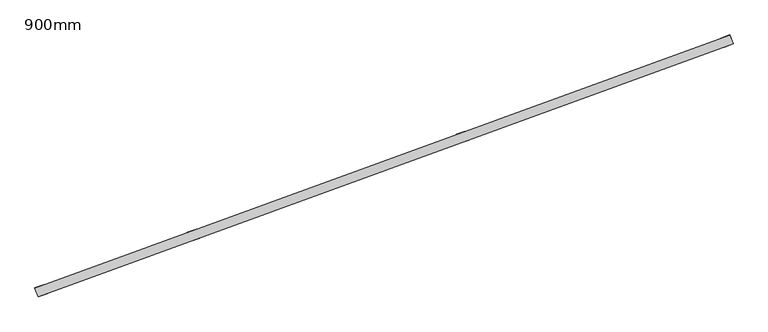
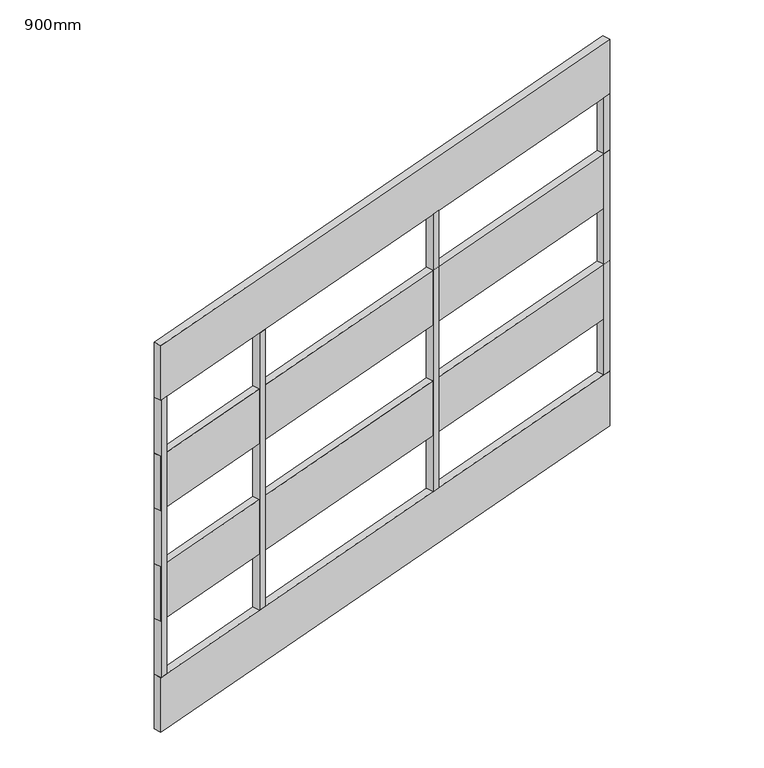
"""IFC4 building model written with IfcOpenShell, lengths in millimetres: railing geometry, 900mm."""

from ifc_helpers import new_model, si_unit, frame, origin, place, context, project, spatial, polyline, outline, extrude, source, transform, mapped, element, save


def railing_900mm_ed1fbf09(model_context):
    return source(origin(), model_context, "Body", "SweptSolid", [
        extrude(outline(polyline([(19660.7231105, 24561.5182921), (19667.2214932, 24543.6641323), (18210.697931, 24013.5329102), (18204.1995483, 24031.38707), (19660.7231105, 24561.5182921)])), frame((0.0, 0.0, 8352.0), z_axis=(0.0, 0.0, 1.0), x_axis=(1.0, 0.0, 0.0)), (0.0, 0.0, 1.0), 148.0),
        extrude(outline(polyline([(19660.7231105, 24561.5182921), (19667.2214932, 24543.6641323), (18210.697931, 24013.5329102), (18204.1995483, 24031.38707), (19660.7231105, 24561.5182921)])), frame((0.0, 0.0, 8052.0), z_axis=(0.0, 0.0, 1.0), x_axis=(1.0, 0.0, 0.0)), (0.0, 0.0, 1.0), 148.0),
        extrude(outline(polyline([(19660.7231105, 24561.5182921), (19667.2214932, 24543.6641323), (18210.697931, 24013.5329102), (18204.1995483, 24031.38707), (19660.7231105, 24561.5182921)])), frame((0.0, 0.0, 7752.0), z_axis=(0.0, 0.0, 1.0), x_axis=(1.0, 0.0, 0.0)), (0.0, 0.0, 1.0), 148.0),
        extrude(outline(polyline([(19660.7231105, 24561.5182921), (19667.2214932, 24543.6641323), (18210.697931, 24013.5329102), (18204.1995483, 24031.38707), (19660.7231105, 24561.5182921)])), frame((0.0, 0.0, 7452.0), z_axis=(0.0, 0.0, 1.0), x_axis=(1.0, 0.0, 0.0)), (0.0, 0.0, 1.0), 148.0),
        extrude(outline(polyline([(18542.3178817, 24154.9841679), (18549.1582845, 24136.1903155), (18530.3644321, 24129.3499126), (18523.5240293, 24148.143765), (18542.3178817, 24154.9841679)])), frame((0.0, 0.0, 7600.0), z_axis=(0.0, 0.0, 1.0), x_axis=(1.0, 0.0, 0.0)), (0.0, 0.0, 1.0), 752.0),
        extrude(outline(polyline([(19106.1334541, 24360.1962539), (19112.973857, 24341.4024015), (19094.1800046, 24334.5619986), (19087.3396017, 24353.355851), (19106.1334541, 24360.1962539)])), frame((0.0, 0.0, 7600.0), z_axis=(0.0, 0.0, 1.0), x_axis=(1.0, 0.0, 0.0)), (0.0, 0.0, 1.0), 752.0),
        extrude(outline(polyline([(18222.8223906, 24038.6973192), (18229.6627935, 24019.9034667), (18210.8689411, 24013.0630639), (18204.0285382, 24031.8569163), (18222.8223906, 24038.6973192)])), frame((0.0, 0.0, 7600.0), z_axis=(0.0, 0.0, 1.0), x_axis=(1.0, 0.0, 0.0)), (0.0, 0.0, 1.0), 752.0),
        extrude(outline(polyline([(19660.5521004, 24561.9881384), (19667.3925033, 24543.194286), (19648.5986509, 24536.3538832), (19641.758248, 24555.1477356), (19660.5521004, 24561.9881384)])), frame((0.0, 0.0, 7600.0), z_axis=(0.0, 0.0, 1.0), x_axis=(1.0, 0.0, 0.0)), (0.0, 0.0, 1.0), 752.0),
    ])


if __name__ == "__main__":
    model = new_model("IFC4")
    model_context = context("Model", 3, world=origin())
    ifc_project = project(units=[si_unit("LENGTHUNIT", "METRE", prefix="MILLI")], contexts=[model_context])
    site = spatial("IfcSite", under=ifc_project)
    building = spatial("IfcBuilding", under=site)
    placement = place(None, origin())
    railing_900mm_shape = railing_900mm_ed1fbf09(model_context)
    element("IfcRailing", 1, ObjectType="900mm", at=placement, inside=building, context=model_context, shape_type="MappedRepresentation", body=[
        mapped(railing_900mm_shape, transform((0.0, 0.0, 0.0), x_axis=(1.0, 0.0, 0.0), y_axis=(0.0, 1.0, 0.0), z_axis=(0.0, 0.0, 1.0))),
    ])
    save(model, "model.ifc")
